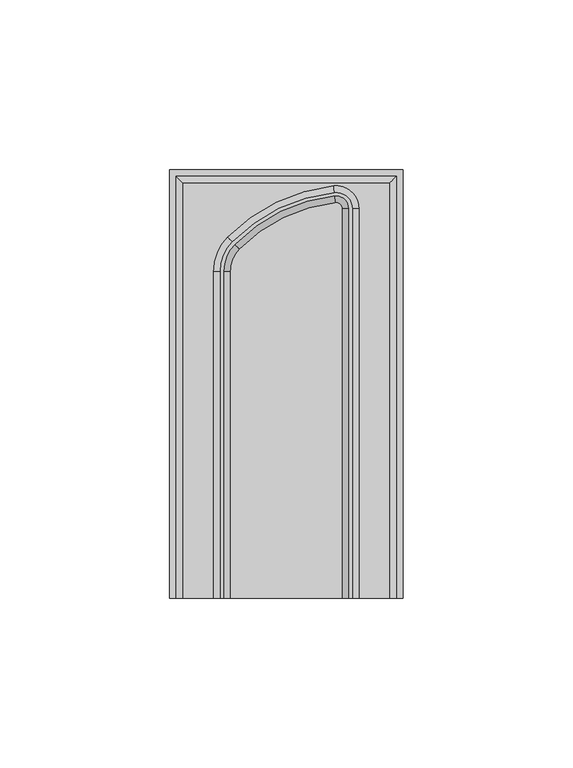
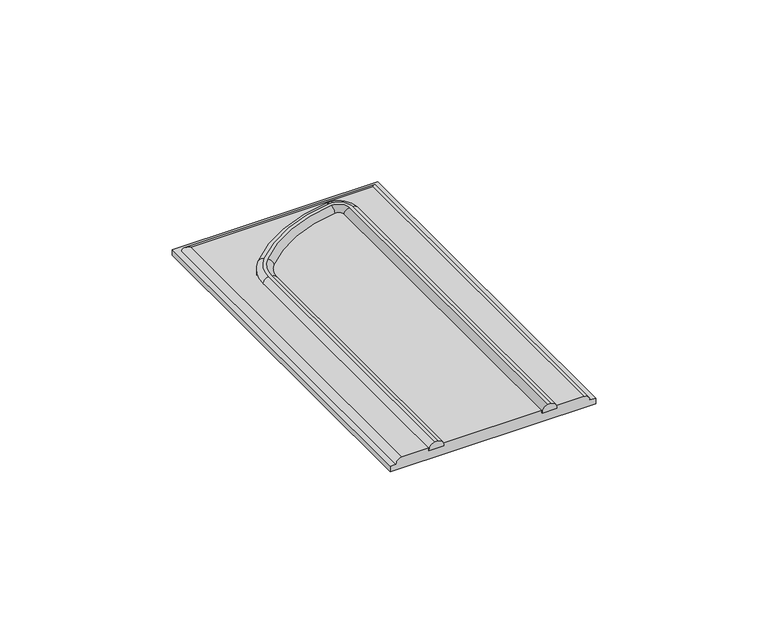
"""IFC4 building model written with IfcOpenShell, lengths in millimetres: proxy geometry, PBSHOP - HORIZONTES NEW YORK 6,5X23 : NEW YORK DECO."""

from ifc_helpers import new_model, si_unit, point, frame, origin, place, context, project, spatial, polyline, circle_curve, ellipse_curve, trimmed, source, transform, mapped, element, save
from ifc_brep_helpers import plane_surface, cylinder_surface, revolved_surface, advanced_brep


def generic_models_bd1edc01(model_context):
    return source(origin(), model_context, "Body", "AdvancedBrep", [
        advanced_brep(
        [(19.4640157, 105.5071309, 5.3386208), (14.2202981, 110.2123811, 5.3386208), (-15.8999404, 95.6870493, 5.3386208), (-19.4640157, 87.0195837, 5.3386208), (-19.4640157, -9.5, 5.3386208), (-18.4640157, -9.5, 5.3386208), (-18.4640157, 87.0195837, 5.3386208), (-15.1892034, 94.9835915, 5.3386208), (14.3282279, 109.2182226, 5.3386208), (18.4640157, 105.5071309, 5.3386208), (18.4640157, -9.5, 5.3386208), (19.4640157, -9.5, 5.3386208), (-13.7677292, 93.576676, 2.9727593), (-16.4640157, 87.0195837, 2.9727593), (-16.4640157, -9.5, 2.9727593), (-21.4640157, -9.5, 2.9727593), (-21.4640157, 87.0195837, 2.9727593), (-17.3214146, 97.0939648, 2.9727593), (14.0044387, 112.2006982, 2.9727593), (21.4640157, 105.5071309, 2.9727593), (21.4640157, -9.5, 2.9727593), (16.4640157, -9.5, 2.9727593), (16.4640157, 105.5071309, 2.9727593), (14.5440873, 107.2299055, 2.9727593), (14.5440873, 107.2299055, 3.3386208), (-13.7677292, 93.576676, 3.3386208), (16.4640157, 105.5071309, 3.3386208), (16.4640157, -9.5, 3.3386208), (-16.4640157, 87.0195837, 3.3386208), (-16.4640157, -9.5, 3.3386208), (-21.4640157, 87.0195837, 3.338622), (-17.3214146, 97.0939648, 3.3386208), (-21.4640157, -9.5, 3.3386208), (21.4640157, 105.5071309, 3.3386208), (21.4640157, -9.5, 3.3386208), (14.0044387, 112.2006982, 3.3386222)],
        [
            (0, 1, circle_curve(frame((14.7311184, 105.5071309, 5.3386208), z_axis=(0.0, 0.0, 1.0), x_axis=(1.0, 0.0, 0.0)), 4.7328973)),
            (1, 2, circle_curve(frame((19.6131804, 60.5376524, 5.3386208), z_axis=(0.0, 0.0, 1.0), x_axis=(-0.10792972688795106, 0.9941585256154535, 0.0)), 49.9666074)),
            (2, 3, circle_curve(frame((-7.1427845, 87.0195837, 5.3386208), z_axis=(0.0, 0.0, 1.0), x_axis=(-0.7107370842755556, 0.7034577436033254, 0.0)), 12.3212312)),
            (3, 4),
            (4, 5),
            (5, 6),
            (6, 7, circle_curve(frame((-7.1427845, 87.0195837, 5.3386208), z_axis=(0.0, 0.0, -1.0), x_axis=(-0.7107370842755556, 0.7034577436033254, 0.0)), 11.3212312)),
            (7, 8, circle_curve(frame((19.6131804, 60.5376524, 5.3386208), z_axis=(0.0, 0.0, -1.0), x_axis=(-0.10792972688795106, 0.9941585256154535, 0.0)), 48.9666074)),
            (8, 9, circle_curve(frame((14.7311184, 105.5071309, 5.3386208), z_axis=(0.0, 0.0, -1.0), x_axis=(1.0, 0.0, 0.0)), 3.7328973)),
            (9, 10),
            (10, 11),
            (11, 0),
            (12, 13, circle_curve(frame((-7.1427845, 87.0195837, 2.9727593), z_axis=(0.0, 0.0, 1.0), x_axis=(1.0, 0.0, 0.0)), 9.3212312)),
            (13, 14),
            (14, 15),
            (15, 16),
            (16, 17, circle_curve(frame((-7.1427845, 87.0195837, 2.9727593), z_axis=(0.0, 0.0, -1.0), x_axis=(1.0, 0.0, 0.0)), 14.3212312)),
            (17, 18, circle_curve(frame((19.6131804, 60.5376524, 2.9727593), z_axis=(0.0, 0.0, -1.0), x_axis=(1.0, 0.0, 0.0)), 51.9666074)),
            (18, 19, circle_curve(frame((14.7311184, 105.5071309, 2.9727593), z_axis=(0.0, 0.0, -1.0), x_axis=(1.0, 0.0, 0.0)), 6.7328973)),
            (19, 20),
            (20, 21),
            (21, 22),
            (22, 23, circle_curve(frame((14.7311184, 105.5071309, 2.9727593), z_axis=(0.0, 0.0, 1.0), x_axis=(1.0, 0.0, 0.0)), 1.7328973)),
            (23, 12, circle_curve(frame((19.6131804, 60.5376524, 2.9727593), z_axis=(0.0, 0.0, 1.0), x_axis=(1.0, 0.0, 0.0)), 46.9666074)),
            (23, 24),
            (24, 25, circle_curve(frame((19.6131804, 60.5376524, 3.3386208), z_axis=(0.0, 0.0, 1.0), x_axis=(1.0, 0.0, 0.0)), 46.9666074)),
            (25, 12),
            (22, 26),
            (26, 24, circle_curve(frame((14.7311184, 105.5071309, 3.3386208), z_axis=(0.0, 0.0, 1.0), x_axis=(1.0, 0.0, 0.0)), 1.7328973)),
            (21, 27),
            (27, 26),
            (13, 28),
            (28, 29),
            (29, 14),
            (25, 28, circle_curve(frame((-7.1427845, 87.0195837, 3.3386208), z_axis=(0.0, 0.0, 1.0), x_axis=(1.0, 0.0, 0.0)), 9.3212312)),
            (16, 30),
            (30, 31, circle_curve(frame((-7.1427845, 87.0195837, 3.3386208), z_axis=(0.0, 0.0, -1.0), x_axis=(1.0, 0.0, 0.0)), 14.3212312)),
            (31, 17),
            (15, 32),
            (32, 30),
            (19, 33),
            (33, 34),
            (34, 20),
            (18, 35),
            (35, 33, circle_curve(frame((14.7311184, 105.5071309, 3.3386208), z_axis=(0.0, 0.0, -1.0), x_axis=(1.0, 0.0, 0.0)), 6.7328973)),
            (31, 35, circle_curve(frame((19.6131804, 60.5376524, 3.3386208), z_axis=(0.0, 0.0, -1.0), x_axis=(1.0, 0.0, 0.0)), 51.9666074)),
            (33, 0, circle_curve(frame((19.4640157, 105.5071309, 3.3386208), z_axis=(0.0, -1.0, 0.0), x_axis=(-1.0, 0.0, 0.0)), 2.0)),
            (11, 34, circle_curve(frame((19.4640157, -9.5, 3.3386208), z_axis=(0.0, 1.0, 0.0), x_axis=(-1.0, 0.0, 0.0)), 2.0)),
            (9, 26, circle_curve(frame((18.4640157, 105.5071309, 3.3386208), z_axis=(0.0, -1.0, 0.0), x_axis=(-1.0, 0.0, 0.0)), 2.0)),
            (27, 10, circle_curve(frame((18.4640157, -9.5, 3.3386208), z_axis=(0.0, 1.0, 0.0), x_axis=(-1.0, 0.0, 0.0)), 2.0)),
            (35, 1, circle_curve(frame((14.2202981, 110.2123811, 3.3386208), z_axis=(0.9941585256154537, 0.10792972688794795, 0.0), x_axis=(0.10792972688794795, -0.9941585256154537, 0.0)), 2.0)),
            (8, 24, circle_curve(frame((14.3282279, 109.2182226, 3.3386208), z_axis=(0.9941585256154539, 0.10792972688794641, 0.0), x_axis=(0.10792972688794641, -0.9941585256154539, 0.0)), 2.0)),
            (31, 2, circle_curve(frame((-15.8999404, 95.6870493, 3.3386208), z_axis=(0.7034577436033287, 0.7107370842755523, 0.0), x_axis=(0.7107370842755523, -0.7034577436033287, 0.0)), 2.0)),
            (7, 25, circle_curve(frame((-15.1892034, 94.9835915, 3.3386208), z_axis=(0.7034577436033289, 0.710737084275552, 0.0), x_axis=(0.710737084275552, -0.7034577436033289, 0.0)), 2.0)),
            (30, 3, circle_curve(frame((-19.4640157, 87.0195837, 3.3386208), z_axis=(0.0, 1.0, 0.0), x_axis=(1.0, 0.0, 0.0)), 2.0)),
            (6, 28, circle_curve(frame((-18.4640157, 87.0195837, 3.3386208), z_axis=(0.0, 1.0, 0.0), x_axis=(1.0, 0.0, 0.0)), 2.0)),
            (32, 4, circle_curve(frame((-19.4640157, -9.5, 3.3386208), z_axis=(0.0, 1.0, 0.0), x_axis=(1.0, 0.0, 0.0)), 2.0)),
            (5, 29, circle_curve(frame((-18.4640157, -9.5, 3.3386208), z_axis=(0.0, 1.0, 0.0), x_axis=(1.0, 0.0, 0.0)), 2.0)),
        ],
        [
            plane_surface(frame((66.5797878, 60.5376524, 5.3386208), z_axis=(0.0, 0.0, 1.0), x_axis=(0.0, -1.0, 0.0))),
            plane_surface(frame((66.5797878, 60.5376524, 2.9727593), z_axis=(0.0, 0.0, -1.0), x_axis=(0.0, 1.0, 0.0))),
            revolved_surface(polyline([(66.5797878, 60.5376524, 2.9727593), (66.5797878, 60.5376524, 3.3386208)]), (19.6131804, 60.5376524, 2.9727593), (0.0, 0.0, -1.0)),
            revolved_surface(polyline([(16.4640157, 105.5071309, 2.9727593), (16.4640157, 105.5071309, 3.3386208)]), (14.7311184, 105.5071309, 2.9727593), (0.0, 0.0, -1.0)),
            plane_surface(frame((16.4640157, 105.5071309, 5.3386208), z_axis=(-1.0, 0.0, 0.0), x_axis=(0.0, 0.0, -1.0))),
            plane_surface(frame((-16.4640157, -105.5071309, 5.3386208), z_axis=(1.0, 0.0, 0.0), x_axis=(0.0, 0.0, -1.0))),
            revolved_surface(polyline([(2.1784466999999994, 87.0195837, 2.9727593), (2.1784466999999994, 87.0195837, 3.3386208)]), (-7.1427845, 87.0195837, 2.9727593), (0.0, 0.0, -1.0)),
            cylinder_surface(frame((-7.1427845, 87.0195837, 0.0), z_axis=(0.0, 0.0, 1.0), x_axis=(1.0, 0.0, 0.0)), 14.3212312),
            plane_surface(frame((-21.4640157, 87.0195837, 5.3386208), z_axis=(-1.0, 0.0, 0.0), x_axis=(0.0, 0.0, -1.0))),
            plane_surface(frame((21.4640157, -87.0195837, 5.3386208), z_axis=(1.0, 0.0, 0.0), x_axis=(0.0, 0.0, -1.0))),
            cylinder_surface(frame((14.7311184, 105.5071309, 0.0), z_axis=(0.0, 0.0, 1.0), x_axis=(1.0, 0.0, 0.0)), 6.7328973),
            cylinder_surface(frame((19.6131804, 60.5376524, 0.0), z_axis=(0.0, 0.0, 1.0), x_axis=(1.0, 0.0, 0.0)), 51.9666074),
            cylinder_surface(frame((19.4640157, -87.0195837, 3.3386208), z_axis=(0.0, 1.0, 0.0), x_axis=(-1.0, 0.0, 0.0)), 2.0),
            cylinder_surface(frame((18.4640157, -87.0195837, 3.3386208), z_axis=(0.0, 1.0, 0.0), x_axis=(-1.0, 0.0, 0.0)), 2.0),
            revolved_surface(trimmed(ellipse_curve(frame((19.4640157, 105.5071309, 3.3386208), z_axis=(0.0, -1.0, 0.0), x_axis=(-1.0, 0.0, 0.0)), 2.0, 2.0), [point((21.4640157, 105.5071309, 3.3386208))], [point((19.4640157, 105.5071309, 5.3386208))], True, "CARTESIAN"), (14.7311184, 105.5071309, 5.3386208), (0.0, 0.0, 1.0)),
            revolved_surface(trimmed(ellipse_curve(frame((18.4640157, 105.5071309, 3.3386208), z_axis=(0.0, -1.0, 0.0), x_axis=(-1.0, 0.0, 0.0)), 2.0, 2.0), [point((18.4640157, 105.5071309, 5.3386208))], [point((16.4640157, 105.5071309, 3.3386208))], True, "CARTESIAN"), (14.7311184, 105.5071309, 5.3386208), (0.0, 0.0, 1.0)),
            revolved_surface(trimmed(ellipse_curve(frame((14.2202981, 110.2123811, 3.3386208), z_axis=(0.9941585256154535, 0.10792972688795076, 0.0), x_axis=(0.10792972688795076, -0.9941585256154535, 0.0)), 2.0, 2.0), [point((14.0044387, 112.2006982, 3.3386208))], [point((14.2202981, 110.2123811, 5.3386208))], True, "CARTESIAN"), (19.6131804, 60.5376524, 5.3386208), (0.0, 0.0, 1.0)),
            revolved_surface(trimmed(ellipse_curve(frame((14.3282279, 109.2182226, 3.3386208), z_axis=(0.9941585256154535, 0.10792972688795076, 0.0), x_axis=(0.10792972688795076, -0.9941585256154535, 0.0)), 2.0, 2.0), [point((14.3282279, 109.2182226, 5.3386208))], [point((14.5440873, 107.2299055, 3.3386208))], True, "CARTESIAN"), (19.6131804, 60.5376524, 5.3386208), (0.0, 0.0, 1.0)),
            revolved_surface(trimmed(ellipse_curve(frame((-15.8999404, 95.6870493, 3.3386208), z_axis=(0.7034577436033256, 0.7107370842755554, 0.0), x_axis=(0.7107370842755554, -0.7034577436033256, 0.0)), 2.0, 2.0), [point((-17.3214146, 97.0939648, 3.3386208))], [point((-15.8999404, 95.6870493, 5.3386208))], True, "CARTESIAN"), (-7.1427845, 87.0195837, 5.3386208), (0.0, 0.0, 1.0)),
            revolved_surface(trimmed(ellipse_curve(frame((-15.1892034, 94.9835915, 3.3386208), z_axis=(0.7034577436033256, 0.7107370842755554, 0.0), x_axis=(0.7107370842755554, -0.7034577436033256, 0.0)), 2.0, 2.0), [point((-15.1892034, 94.9835915, 5.3386208))], [point((-13.7677292, 93.576676, 3.3386208))], True, "CARTESIAN"), (-7.1427845, 87.0195837, 5.3386208), (0.0, 0.0, 1.0)),
            cylinder_surface(frame((-19.4640157, 87.0195837, 3.3386208), z_axis=(0.0, -1.0, 0.0), x_axis=(1.0, 0.0, 0.0)), 2.0),
            cylinder_surface(frame((-18.4640157, 87.0195837, 3.3386208), z_axis=(0.0, -1.0, 0.0), x_axis=(1.0, 0.0, 0.0)), 2.0),
            plane_surface(frame((34.5, -9.5, 6.3064251), z_axis=(0.0, -1.0, 0.0), x_axis=(0.0, 0.0, -1.0))),
        ],
        [
            (0, [[1, 2, 3, 4, 5, 6, 7, 8, 9, 10, 11, 12]]),
            (1, [[13, 14, 15, 16, 17, 18, 19, 20, 21, 22, 23, 24]]),
            (2, [[-24, 25, 26, 27]]),
            (3, [[-23, 28, 29, -25]]),
            (4, [[-28, -22, 30, 31]]),
            (5, [[32, 33, 34, -14]]),
            (6, [[-13, -27, 35, -32]]),
            (7, [[-17, 36, 37, 38]]),
            (8, [[-36, -16, 39, 40]]),
            (9, [[41, 42, 43, -20]]),
            (10, [[-19, 44, 45, -41]]),
            (11, [[-18, -38, 46, -44]]),
            (12, [[47, -12, 48, -42]]),
            (13, [[49, -31, 50, -10]]),
            (14, [[-47, -45, 51, -1]]),
            (15, [[-49, -9, 52, -29]]),
            (16, [[-51, -46, 53, -2]]),
            (17, [[-52, -8, 54, -26]]),
            (18, [[-53, -37, 55, -3]]),
            (19, [[-54, -7, 56, -35]]),
            (20, [[-55, -40, 57, -4]]),
            (21, [[-56, -6, 58, -33]]),
            (22, [[-5, -57, -39, -15, -34, -58]]),
            (22, [[-11, -50, -30, -21, -43, -48]]),
        ],
    ),
        advanced_brep(
        [(30.5, 113.0, 4.0), (-30.5, 113.0, 4.0), (-30.5, -9.5, 4.0), (30.5, -9.5, 4.0), (-34.5, 117.0, 0.0), (34.5, 117.0, 0.0), (34.5, -9.5, 0.0), (-34.5, -9.5, 0.0), (32.5, 115.0, 2.0), (32.5, -9.5, 2.0), (-32.5, 115.0, 2.0), (-32.5, -9.5, 2.0), (34.5, 117.0, 2.0), (-34.5, 117.0, 2.0), (-34.5, -9.5, 2.0), (34.5, -9.5, 2.0)],
        [
            (0, 1),
            (1, 2),
            (2, 3),
            (3, 0),
            (4, 5),
            (5, 6),
            (6, 7),
            (7, 4),
            (8, 0, ellipse_curve(frame((30.5, 113.0, 2.0), z_axis=(0.7071067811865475, -0.7071067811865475, 0.0), x_axis=(0.7071067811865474, 0.7071067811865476, 0.0)), 2.8284271, 2.0)),
            (3, 9, circle_curve(frame((30.5, -9.5, 2.0), z_axis=(0.0, 1.0, 0.0), x_axis=(-1.0, 0.0, 0.0)), 2.0)),
            (9, 8),
            (8, 10),
            (10, 1, ellipse_curve(frame((-30.5, 113.0, 2.0), z_axis=(0.7071067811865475, 0.7071067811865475, 0.0), x_axis=(-0.7071067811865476, 0.7071067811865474, 0.0)), 2.8284271, 2.0)),
            (10, 11),
            (11, 2, circle_curve(frame((-30.5, -9.5, 2.0), z_axis=(0.0, 1.0, 0.0), x_axis=(1.0, 0.0, 0.0)), 2.0)),
            (12, 13),
            (13, 14),
            (14, 11),
            (9, 15),
            (15, 12),
            (12, 5),
            (4, 13),
            (7, 14),
            (15, 6),
        ],
        [
            plane_surface(frame((-32.5, -115.0, 4.0), z_axis=(0.0, 0.0, 1.0), x_axis=(1.0, 0.0, 0.0))),
            plane_surface(frame((-32.5, -115.0, 0.0), z_axis=(0.0, 0.0, -1.0), x_axis=(-1.0, 0.0, 0.0))),
            cylinder_surface(frame((30.5, -115.0, 2.0), z_axis=(0.0, 1.0, 0.0), x_axis=(-1.0, 0.0, 0.0)), 2.0),
            cylinder_surface(frame((32.5, 113.0, 2.0), z_axis=(-1.0, 0.0, 0.0), x_axis=(0.0, -1.0, 0.0)), 2.0),
            cylinder_surface(frame((-30.5, 115.0, 2.0), z_axis=(0.0, -1.0, 0.0), x_axis=(1.0, 0.0, 0.0)), 2.0),
            plane_surface(frame((-34.5, 117.0, 2.0), z_axis=(0.0, 0.0, 1.0), x_axis=(-1.0, 0.0, 0.0))),
            plane_surface(frame((34.5, 117.0, 2.0), z_axis=(0.0, 1.0, 0.0), x_axis=(0.0, 0.0, -1.0))),
            plane_surface(frame((-34.5, 117.0, 2.0), z_axis=(-1.0, 0.0, 0.0), x_axis=(0.0, 0.0, -1.0))),
            plane_surface(frame((34.5, -117.0, 2.0), z_axis=(1.0, 0.0, 0.0), x_axis=(0.0, 0.0, -1.0))),
            plane_surface(frame((34.5, -9.5, 6.3064251), z_axis=(0.0, -1.0, 0.0), x_axis=(0.0, 0.0, -1.0))),
        ],
        [
            (0, [[1, 2, 3, 4]]),
            (1, [[5, 6, 7, 8]]),
            (2, [[9, -4, 10, 11]]),
            (3, [[-9, 12, 13, -1]]),
            (4, [[-13, 14, 15, -2]]),
            (5, [[16, 17, 18, -14, -12, -11, 19, 20]]),
            (6, [[-16, 21, -5, 22]]),
            (7, [[-22, -8, 23, -17]]),
            (8, [[-21, -20, 24, -6]]),
            (9, [[-3, -15, -18, -23, -7, -24, -19, -10]]),
        ],
    ),
    ])


if __name__ == "__main__":
    model = new_model("IFC4")
    model_context = context("Model", 3, world=origin())
    ifc_project = project(units=[si_unit("LENGTHUNIT", "METRE", prefix="MILLI")], contexts=[model_context])
    site = spatial("IfcSite", under=ifc_project)
    building = spatial("IfcBuilding", under=site)
    placement = place(None, origin())
    generic_models_shape = generic_models_bd1edc01(model_context)
    element("IfcBuildingElementProxy", 1, Name="PBSHOP - HORIZONTES NEW YORK 6,5X23 : NEW YORK DECO", ObjectType="PBSHOP - HORIZONTES NEW YORK 6,5X23 : NEW YORK DECO", at=placement, inside=building, context=model_context, shape_type="MappedRepresentation", body=[
        mapped(generic_models_shape, transform((0.0, 0.0, 0.0), x_axis=(1.0, 0.0, 0.0), y_axis=(0.0, 1.0, 0.0), z_axis=(0.0, 0.0, 1.0))),
    ])
    save(model, "model.ifc")
